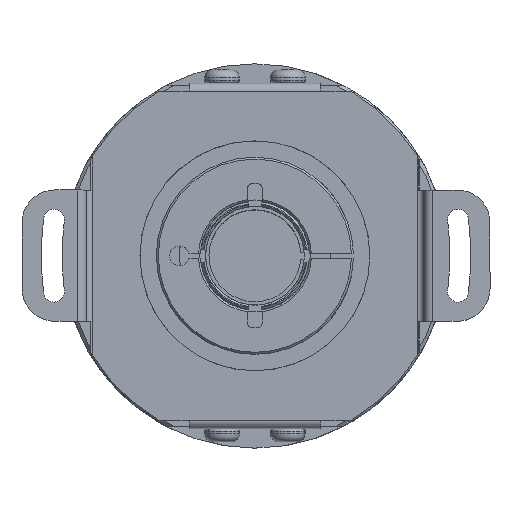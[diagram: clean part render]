
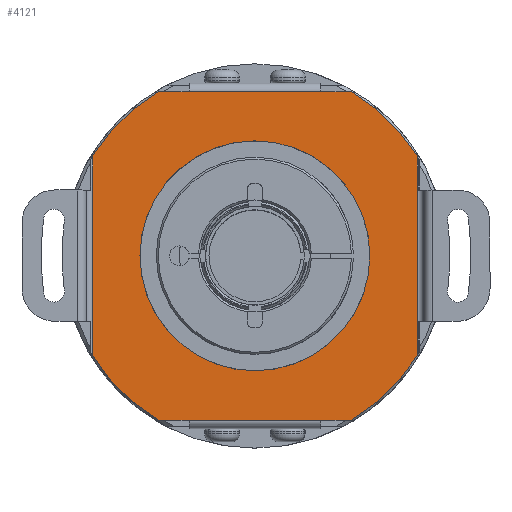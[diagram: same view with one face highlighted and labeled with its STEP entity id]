
A CAD part, top view. The second image highlights one B-rep face of the part: STEP entity #4121.
In plain terms, the highlighted planar face has unit normal (0, 0, 1).
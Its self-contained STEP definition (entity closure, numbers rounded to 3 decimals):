
#4120 = VERTEX_POINT ( 'NONE', #8258 ) ;
#4121 = ADVANCED_FACE ( 'NONE', ( #8257, #8256 ), #8255, .T. ) ;
#4122 = ORIENTED_EDGE ( 'NONE', *, *, #4123, .F. ) ;
#4123 = EDGE_CURVE ( 'NONE', #4300, #4347, #8250, .T. ) ;
#4136 = ORIENTED_EDGE ( 'NONE', *, *, #4137, .F. ) ;
#4137 = EDGE_CURVE ( 'NONE', #4282, #4274, #8293, .T. ) ;
#4138 = ORIENTED_EDGE ( 'NONE', *, *, #4226, .T. ) ;
#4157 = EDGE_CURVE ( 'NONE', #4214, #4158, #8318, .T. ) ;
#4158 = VERTEX_POINT ( 'NONE', #8313 ) ;
#4160 = EDGE_CURVE ( 'NONE', #4301, #4161, #8312, .T. ) ;
#4161 = VERTEX_POINT ( 'NONE', #8308 ) ;
#4172 = ORIENTED_EDGE ( 'NONE', *, *, #4173, .F. ) ;
#4173 = EDGE_CURVE ( 'NONE', #4174, #4300, #8559, .T. ) ;
#4174 = VERTEX_POINT ( 'NONE', #8553 ) ;
#4175 = ORIENTED_EDGE ( 'NONE', *, *, #4242, .F. ) ;
#4176 = VERTEX_POINT ( 'NONE', #8552 ) ;
#4177 = ORIENTED_EDGE ( 'NONE', *, *, #4206, .F. ) ;
#4206 = EDGE_CURVE ( 'NONE', #4120, #4227, #8640, .T. ) ;
#4214 = VERTEX_POINT ( 'NONE', #8709 ) ;
#4226 = EDGE_CURVE ( 'NONE', #4282, #4227, #8668, .T. ) ;
#4227 = VERTEX_POINT ( 'NONE', #8661 ) ;
#4242 = EDGE_CURVE ( 'NONE', #4176, #4161, #8731, .T. ) ;
#4250 = ORIENTED_EDGE ( 'NONE', *, *, #4315, .F. ) ;
#4259 = EDGE_CURVE ( 'NONE', #4354, #4260, #8792, .T. ) ;
#4260 = VERTEX_POINT ( 'NONE', #8784 ) ;
#4261 = ORIENTED_EDGE ( 'NONE', *, *, #4262, .F. ) ;
#4262 = EDGE_CURVE ( 'NONE', #4158, #4214, #8782, .T. ) ;
#4273 = EDGE_LOOP ( 'NONE', ( #4261, #4373 ) ) ;
#4274 = VERTEX_POINT ( 'NONE', #8845 ) ;
#4275 = ORIENTED_EDGE ( 'NONE', *, *, #4160, .T. ) ;
#4282 = VERTEX_POINT ( 'NONE', #8834 ) ;
#4283 = EDGE_CURVE ( 'NONE', #4347, #4120, #8833, .T. ) ;
#4298 = ORIENTED_EDGE ( 'NONE', *, *, #4314, .F. ) ;
#4299 = EDGE_LOOP ( 'NONE', ( #4136, #4138, #4177, #4316, #4122, #4172, #4353, #4355, #4298, #4275, #4175, #4250 ) ) ;
#4300 = VERTEX_POINT ( 'NONE', #8864 ) ;
#4301 = VERTEX_POINT ( 'NONE', #8863 ) ;
#4314 = EDGE_CURVE ( 'NONE', #4301, #4260, #10661, .T. ) ;
#4315 = EDGE_CURVE ( 'NONE', #4274, #4176, #10657, .T. ) ;
#4316 = ORIENTED_EDGE ( 'NONE', *, *, #4283, .F. ) ;
#4317 = EDGE_CURVE ( 'NONE', #4174, #4354, #10652, .T. ) ;
#4347 = VERTEX_POINT ( 'NONE', #10680 ) ;
#4353 = ORIENTED_EDGE ( 'NONE', *, *, #4317, .T. ) ;
#4354 = VERTEX_POINT ( 'NONE', #10727 ) ;
#4355 = ORIENTED_EDGE ( 'NONE', *, *, #4259, .T. ) ;
#4373 = ORIENTED_EDGE ( 'NONE', *, *, #4157, .F. ) ;
#8247 = DIRECTION ( 'NONE',  ( 1., 0., 0. ) ) ;
#8248 = VECTOR ( 'NONE', #8247, 1000. ) ;
#8249 = CARTESIAN_POINT ( 'NONE',  ( -10., 25., 4.194 ) ) ;
#8250 = LINE ( 'NONE', #8249, #8248 ) ;
#8251 = DIRECTION ( 'NONE',  ( 0., 1., 0. ) ) ;
#8252 = DIRECTION ( 'NONE',  ( 0., 0., 1. ) ) ;
#8253 = CARTESIAN_POINT ( 'NONE',  ( 5., 35.2, 4.194 ) ) ;
#8254 = AXIS2_PLACEMENT_3D ( 'NONE', #8253, #8252, #8251 ) ;
#8255 = PLANE ( 'NONE',  #8254 ) ;
#8256 = FACE_BOUND ( 'NONE', #4273, .T. ) ;
#8257 = FACE_OUTER_BOUND ( 'NONE', #4299, .T. ) ;
#8258 = CARTESIAN_POINT ( 'NONE',  ( 10., 25., 4.194 ) ) ;
#8290 = DIRECTION ( 'NONE',  ( 0., -1., 0. ) ) ;
#8291 = VECTOR ( 'NONE', #8290, 1000. ) ;
#8292 = CARTESIAN_POINT ( 'NONE',  ( 24.7, 35.2, 4.194 ) ) ;
#8293 = LINE ( 'NONE', #8292, #8291 ) ;
#8308 = CARTESIAN_POINT ( 'NONE',  ( 10., -25., 4.194 ) ) ;
#8309 = DIRECTION ( 'NONE',  ( 1., 0., 0. ) ) ;
#8310 = VECTOR ( 'NONE', #8309, 1000. ) ;
#8311 = CARTESIAN_POINT ( 'NONE',  ( 5., -25., 4.194 ) ) ;
#8312 = LINE ( 'NONE', #8311, #8310 ) ;
#8313 = CARTESIAN_POINT ( 'NONE',  ( 0., 17.5, 4.194 ) ) ;
#8314 = DIRECTION ( 'NONE',  ( 0., 1., 0. ) ) ;
#8315 = DIRECTION ( 'NONE',  ( 0., 0., 1. ) ) ;
#8316 = CARTESIAN_POINT ( 'NONE',  ( 0., 0., 4.194 ) ) ;
#8317 = AXIS2_PLACEMENT_3D ( 'NONE', #8316, #8315, #8314 ) ;
#8318 = CIRCLE ( 'NONE', #8317, 17.5 ) ;
#8552 = CARTESIAN_POINT ( 'NONE',  ( 14.697, -25., 4.194 ) ) ;
#8553 = CARTESIAN_POINT ( 'NONE',  ( -24.7, 15.196, 4.194 ) ) ;
#8555 = DIRECTION ( 'NONE',  ( 0., 1., 0. ) ) ;
#8556 = DIRECTION ( 'NONE',  ( 0., 0., -1. ) ) ;
#8557 = CARTESIAN_POINT ( 'NONE',  ( 0., 0., 4.194 ) ) ;
#8558 = AXIS2_PLACEMENT_3D ( 'NONE', #8557, #8556, #8555 ) ;
#8559 = CIRCLE ( 'NONE', #8558, 29. ) ;
#8635 = DIRECTION ( 'NONE',  ( 1., 0., 0. ) ) ;
#8637 = VECTOR ( 'NONE', #8635, 1000. ) ;
#8638 = CARTESIAN_POINT ( 'NONE',  ( 25., 25., 4.194 ) ) ;
#8640 = LINE ( 'NONE', #8638, #8637 ) ;
#8661 = CARTESIAN_POINT ( 'NONE',  ( 14.697, 25., 4.194 ) ) ;
#8664 = DIRECTION ( 'NONE',  ( 0., 1., 0. ) ) ;
#8665 = DIRECTION ( 'NONE',  ( 0., 0., 1. ) ) ;
#8667 = AXIS2_PLACEMENT_3D ( 'NONE', #8674, #8665, #8664 ) ;
#8668 = CIRCLE ( 'NONE', #8667, 29. ) ;
#8674 = CARTESIAN_POINT ( 'NONE',  ( 0., 0., 4.194 ) ) ;
#8709 = CARTESIAN_POINT ( 'NONE',  ( 0., -17.5, 4.194 ) ) ;
#8725 = DIRECTION ( 'NONE',  ( -1., 0., 0. ) ) ;
#8727 = VECTOR ( 'NONE', #8725, 1000. ) ;
#8729 = CARTESIAN_POINT ( 'NONE',  ( 10., -25., 4.194 ) ) ;
#8731 = LINE ( 'NONE', #8729, #8727 ) ;
#8777 = DIRECTION ( 'NONE',  ( 0., 1., 0. ) ) ;
#8778 = DIRECTION ( 'NONE',  ( 0., 0., 1. ) ) ;
#8779 = CARTESIAN_POINT ( 'NONE',  ( 0., 0., 4.194 ) ) ;
#8781 = AXIS2_PLACEMENT_3D ( 'NONE', #8779, #8778, #8777 ) ;
#8782 = CIRCLE ( 'NONE', #8781, 17.5 ) ;
#8784 = CARTESIAN_POINT ( 'NONE',  ( -14.697, -25., 4.194 ) ) ;
#8785 = DIRECTION ( 'NONE',  ( -1., 0., 0. ) ) ;
#8787 = DIRECTION ( 'NONE',  ( 0., 0., 1. ) ) ;
#8788 = CARTESIAN_POINT ( 'NONE',  ( 0., 0., 4.194 ) ) ;
#8790 = AXIS2_PLACEMENT_3D ( 'NONE', #8788, #8787, #8785 ) ;
#8792 = CIRCLE ( 'NONE', #8790, 29. ) ;
#8829 = DIRECTION ( 'NONE',  ( 1., 0., 0. ) ) ;
#8830 = VECTOR ( 'NONE', #8829, 1000. ) ;
#8832 = CARTESIAN_POINT ( 'NONE',  ( 5., 25., 4.194 ) ) ;
#8833 = LINE ( 'NONE', #8832, #8830 ) ;
#8834 = CARTESIAN_POINT ( 'NONE',  ( 24.7, 15.196, 4.194 ) ) ;
#8845 = CARTESIAN_POINT ( 'NONE',  ( 24.7, -15.196, 4.194 ) ) ;
#8863 = CARTESIAN_POINT ( 'NONE',  ( -10., -25., 4.194 ) ) ;
#8864 = CARTESIAN_POINT ( 'NONE',  ( -14.697, 25., 4.194 ) ) ;
#10649 = DIRECTION ( 'NONE',  ( 0., -1., 0. ) ) ;
#10650 = VECTOR ( 'NONE', #10649, 1000. ) ;
#10651 = CARTESIAN_POINT ( 'NONE',  ( -24.7, 35.2, 4.194 ) ) ;
#10652 = LINE ( 'NONE', #10651, #10650 ) ;
#10653 = DIRECTION ( 'NONE',  ( 0., -1., 0. ) ) ;
#10654 = DIRECTION ( 'NONE',  ( 0., 0., -1. ) ) ;
#10655 = CARTESIAN_POINT ( 'NONE',  ( 0., 0., 4.194 ) ) ;
#10656 = AXIS2_PLACEMENT_3D ( 'NONE', #10655, #10654, #10653 ) ;
#10657 = CIRCLE ( 'NONE', #10656, 29. ) ;
#10658 = DIRECTION ( 'NONE',  ( -1., 0., 0. ) ) ;
#10659 = VECTOR ( 'NONE', #10658, 1000. ) ;
#10660 = CARTESIAN_POINT ( 'NONE',  ( -25., -25., 4.194 ) ) ;
#10661 = LINE ( 'NONE', #10660, #10659 ) ;
#10680 = CARTESIAN_POINT ( 'NONE',  ( -10., 25., 4.194 ) ) ;
#10727 = CARTESIAN_POINT ( 'NONE',  ( -24.7, -15.196, 4.194 ) ) ;
